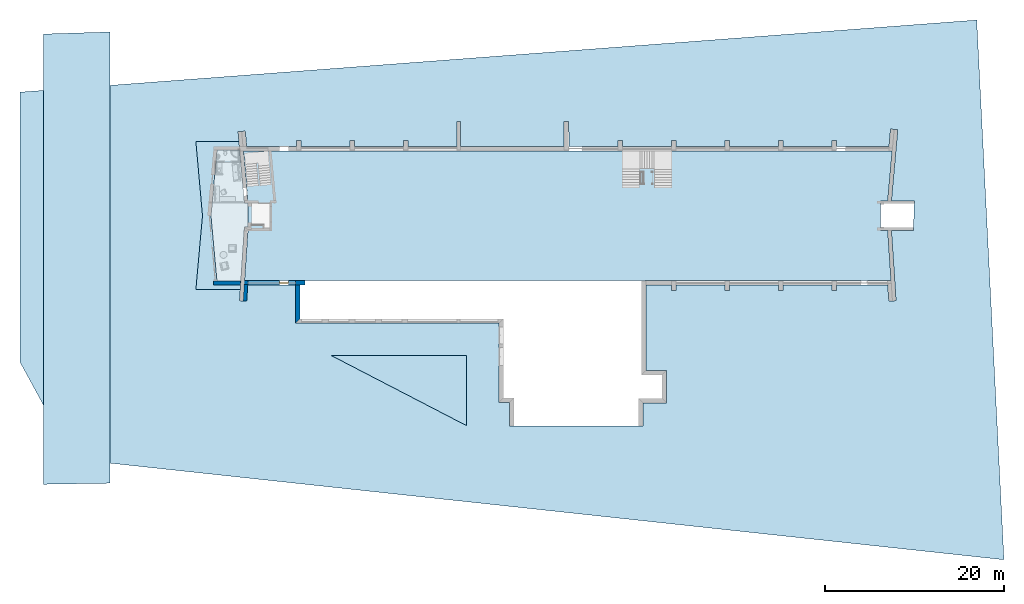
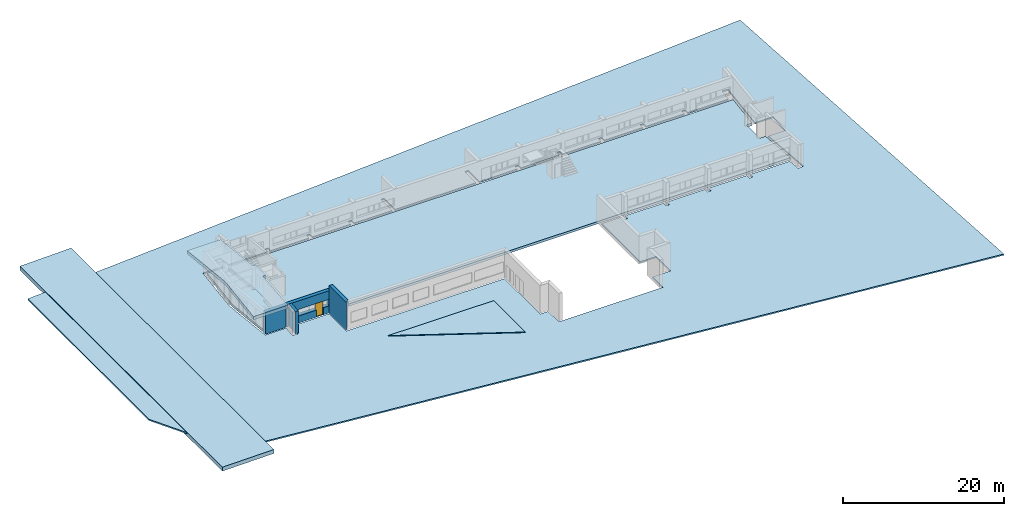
# One storey, part 1 of 36: 6 slabs, 4 walls, 1 door, 5 openings.
"""IFC2X3 building model written with IfcOpenShell, lengths in millimetres."""

from ifc_helpers import new_model, entity, si_unit, converted_unit, money_unit, direction, frame, origin_with_axes, place, context, subcontext, project, spatial, polyline, outline, extrude, open_shell, faceted_brep, surface_model, source, transform, mapped, material, material_list, layer, layer_set, layer_usage, type_object, element, fill, save


model = new_model("IFC2X3")

# Units and contexts
model_context = context("Model", 3, precision=1e-05, world=origin_with_axes(), true_north=direction((0.0, 1.0)))
body_context = subcontext(model_context, "Body", "Model", "MODEL_VIEW")
ifc_project = project(units=[si_unit("LENGTHUNIT", "METRE", prefix="MILLI"), si_unit("AREAUNIT", "SQUARE_METRE"), si_unit("VOLUMEUNIT", "CUBIC_METRE"), converted_unit("PLANEANGLEUNIT", "DEGREE", entity("IfcPlaneAngleMeasure", 0.0174532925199), si_unit("PLANEANGLEUNIT", "RADIAN"), dimensions=[0, 0, 0, 0, 0, 0, 0]), si_unit("SOLIDANGLEUNIT", "STERADIAN"), money_unit("USD"), converted_unit("TIMEUNIT", "Year", entity("IfcTimeMeasure", 31556926.0), si_unit("TIMEUNIT", "SECOND"), dimensions=[0, 0, 0, 0, 0, 0, 0]), si_unit("MASSUNIT", "GRAM"), si_unit("THERMODYNAMICTEMPERATUREUNIT", "DEGREE_CELSIUS"), si_unit("LUMINOUSINTENSITYUNIT", "LUMEN")], contexts=[model_context])

# Site, building, storey
site_placement = place(None, origin_with_axes())
site = spatial("IfcSite", under=ifc_project, at=site_placement, Name="Site", CompositionType="ELEMENT")
building_placement = place(site_placement, origin_with_axes())
building = spatial("IfcBuilding", under=site, at=building_placement, Name="Building", CompositionType="ELEMENT")
storey_placement = place(building_placement, frame((0.0, 0.0, -3400.0), z_axis=(0.0, 0.0, 1.0), x_axis=(1.0, 0.0, 0.0)))
storey = spatial("IfcBuildingStorey", under=building, at=storey_placement, Name="1KORRUS", CompositionType="ELEMENT", Elevation=-3400.0)

# Slabs
ifc_material_1 = material(Name="Plaat")
ifc_layer_1 = layer(ifc_material_1, 20.0, ventilated="UNKNOWN")
ifc_material_2 = material(Name="Betoonvalu")
ifc_layer_2 = layer(ifc_material_2, 100.0, ventilated="UNKNOWN")
ifc_material_3 = material(Name="Vahtpolüstüreen")
ifc_layer_3 = layer(ifc_material_3, 250.0, ventilated="UNKNOWN")
ifc_material_4 = material(Name="Kile")
ifc_layer_4 = layer(ifc_material_4, 2.0, ventilated="UNKNOWN")
ifc_layer_set_1 = layer_set([ifc_layer_1, ifc_layer_2, ifc_layer_3, ifc_layer_4], Name="Uus põrand betoonalusel klinkerplaat")
ifc_layer_usage_1 = layer_usage(ifc_layer_set_1, "AXIS3", "NEGATIVE", 372.0)
slab_type_1 = type_object("IfcSlabType", Name="Uus põrand betoonalusel klinkerplaat 372", PredefinedType="NOTDEFINED")
slab_1_placement = place(storey_placement, frame((-57282.5427324, -5039.6041088, 0.0), z_axis=(0.0, 0.0, 1.0), x_axis=(1.0, 0.0, 0.0)))
element("IfcSlab", 1, at=slab_1_placement, inside=storey, type_object=slab_type_1, material=ifc_layer_usage_1, Name="P1", ObjectType="P1", PredefinedType="FLOOR", context=body_context, shape_type="SweptSolid", body=[
    extrude(outline(polyline([(0.0, 0.0), (-672.046075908, -7350.62101853), (0.0, -14701.2420371), (2676.79244462, -14701.2420371), (3081.06805707, -8621.9084088), (3490.31580567, -8621.9084088), (3490.31580567, -5958.04851288), (3073.13371336, -5958.04851288), (3073.13371336, -5658.04865282), (3054.95497721, -5658.04865282), (2545.95737536, 0.0), (0.0, 0.0)])), frame((0.0, 0.0, -372.0), z_axis=(0.0, 0.0, 1.0), x_axis=(1.0, 0.0, 0.0)), (0.0, 0.0, 1.0), 372.0),
])
ifc_material_5 = material(Name="GENERIC - INTERNAL CLADDING")
ifc_layer_5 = layer(ifc_material_5, 50.0, ventilated="UNKNOWN")
ifc_layer_6 = layer(ifc_material_5, 100.0, ventilated="UNKNOWN")
ifc_material_6 = material(Name="GENERIC - STRUCTURAL (1)")
ifc_layer_7 = layer(ifc_material_6, 350.0, ventilated="UNKNOWN")
ifc_layer_set_2 = layer_set([ifc_layer_5, ifc_layer_6, ifc_layer_7], Name="Generic Slab/Roof (1)")
ifc_layer_usage_2 = layer_usage(ifc_layer_set_2, "AXIS3", "NEGATIVE", 500.0)
slab_type_2 = type_object("IfcSlabType", Name="Generic Slab/Roof 500", PredefinedType="FLOOR")
slab_2_placement = place(storey_placement, frame((-54821.1840913, -4099.20034937, 3700.0), z_axis=(0.0, 0.0, 1.0), x_axis=(1.0, 0.0, 0.0)))
element("IfcSlab", 2, at=slab_2_placement, inside=storey, type_object=slab_type_2, material=ifc_layer_usage_2, Name="K2", ObjectType="K2", PredefinedType="FLOOR", context=body_context, shape_type="SweptSolid", body=[
    extrude(outline(polyline([(0.0, 0.0), (-4826.89046876, 0.0), (-4085.07302194, -8291.02477795), (-4826.89880394, -16578.2259876), (153.262025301, -16576.558749), (611.342091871, -9562.31214002), (1028.95726024, -9562.31214002), (1028.95726024, -6898.45232183), (620.584308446, -6898.45232183), (0.0, 0.0)])), frame((0.0, 0.0, -500.0), z_axis=(0.0, 0.0, 1.0), x_axis=(1.0, 0.0, 0.0)), (0.0, 0.0, 1.0), 500.0),
])
ifc_layer_8 = layer(ifc_material_1, 10.0, ventilated="UNKNOWN")
ifc_layer_9 = layer(ifc_material_2, 15.0, ventilated="UNKNOWN")
ifc_layer_10 = layer(ifc_material_3, 30.0, ventilated="UNKNOWN")
ifc_material_7 = material(Name="Reinforced Concrete - Structural (1)")
ifc_layer_11 = layer(ifc_material_7, 265.0, ventilated="UNKNOWN")
ifc_layer_12 = layer(ifc_material_4, 45.0, ventilated="UNKNOWN")
ifc_layer_set_3 = layer_set([ifc_layer_8, ifc_layer_9, ifc_layer_10, ifc_layer_11, ifc_layer_12], Name="Olemasolev põrand, vahelagi, uus viimistlus")
ifc_layer_usage_3 = layer_usage(ifc_layer_set_3, "AXIS3", "NEGATIVE", 365.0)
slab_type_3 = type_object("IfcSlabType", Name="Olemasolev põrand, vahelagi, uus viimistlus 365", PredefinedType="NOTDEFINED")
slab_3_placement = place(storey_placement, frame((18345.3807357, -5139.6041088, 0.0), z_axis=(0.0, 0.0, 1.0), x_axis=(1.0, 0.0, 0.0)))
element("IfcSlab", 3, at=slab_3_placement, inside=storey, type_object=slab_type_3, material=ifc_layer_usage_3, Name="P2", ObjectType="P2", PredefinedType="FLOOR", context=body_context, shape_type="SweptSolid", body=[
    extrude(outline(polyline([(0.0, 0.0), (-72688.4069777, 0.0), (-72180.3491953, -5558.0485624), (-72137.6075668, -5858.0485624), (-72137.6075668, -8521.9083806), (-72541.2011619, -14499.6357906), (-127.864082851, -14499.6357906), (-500.264111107, -8899.63579061), (-1330.20076601, -8899.63579061), (-1330.20076601, -5600.0), (-503.775624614, -5600.0), (0.0, 0.0)])), frame((0.0, 0.0, -365.0), z_axis=(0.0, 0.0, 1.0), x_axis=(1.0, 0.0, 0.0)), (0.0, 0.0, 1.0), 365.0),
])
ifc_material_8 = material(Name="Betoon")
ifc_layer_13 = layer(ifc_material_8, 600.0, ventilated="UNKNOWN")
ifc_layer_set_4 = layer_set([ifc_layer_13], Name="Betoon 600")
ifc_layer_usage_4 = layer_usage(ifc_layer_set_4, "AXIS3", "NEGATIVE", 600.0)
slab_type_4 = type_object("IfcSlabType", Name="Betoon 600", PredefinedType="FLOOR")
slab_4_placement = place(storey_placement, frame((-44515.6452259, -28045.0388889, 0.0), z_axis=(0.0, 0.0, 1.0), x_axis=(1.0, 0.0, 0.0)))
element("IfcSlab", 4, at=slab_4_placement, inside=storey, type_object=slab_type_4, material=ifc_layer_usage_4, Name="SLA - 009", PredefinedType="FLOOR", context=body_context, shape_type="SweptSolid", body=[
    extrude(outline(polyline([(0.0, 0.0), (15193.0558398, -7873.32448376), (15193.0558398, 0.0), (0.0, 0.0)])), frame((0.0, 0.0, -600.0), z_axis=(0.0, 0.0, 1.0), x_axis=(1.0, 0.0, 0.0)), (0.0, 0.0, 1.0), 600.0),
])
ifc_layer_usage_5 = layer_usage(ifc_layer_set_4, "AXIS3", "NEGATIVE", 600.0)
slab_5_placement = place(storey_placement, frame((-69238.5653449, 8183.10269423, 0.0), z_axis=(0.0, 0.0, 1.0), x_axis=(1.0, 0.0, 0.0)))
element("IfcSlab", 5, at=slab_5_placement, inside=storey, type_object=slab_type_4, material=ifc_layer_usage_5, Name="SLA - 009", PredefinedType="FLOOR", context=body_context, shape_type="SweptSolid", body=[
    extrude(outline(polyline([(0.0, 0.0), (-7479.47671339, -234.980930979), (-7479.47671339, -50668.4997614), (0.0, -50541.7823774), (0.0, 0.0)])), frame((0.0, 0.0, -600.0), z_axis=(0.0, 0.0, 1.0), x_axis=(1.0, 0.0, 0.0)), (0.0, 0.0, 1.0), 600.0),
])

# Slab, opening
ifc_material_9 = material(Name="Sillutis, Pinnas")
ifc_layer_14 = layer(ifc_material_9, 200.0, ventilated="UNKNOWN")
ifc_layer_set_5 = layer_set([ifc_layer_14], Name="Sillutis, Pinnas 200")
ifc_layer_usage_6 = layer_usage(ifc_layer_set_5, "AXIS3", "NEGATIVE", 200.0)
slab_type_5 = type_object("IfcSlabType", Name="Sillutis, Pinnas 200", PredefinedType="NOTDEFINED")
slab_6_placement = place(storey_placement, frame((27813.1369212, 9518.9313196, -100.0), z_axis=(0.0, 0.0, 1.0), x_axis=(1.0, 0.0, 0.0)))
slab_6 = element("IfcSlab", 6, at=slab_6_placement, inside=storey, type_object=slab_type_5, material=ifc_layer_usage_6, Name="SILLUTIS", PredefinedType="FLOOR", context=body_context, shape_type="SweptSolid", body=[
    extrude(outline(polyline([(0.0, 0.0), (-107158.602901, -8079.0881796), (-107158.602901, -38313.8670272), (-101238.645486, -49189.4258915), (3051.880033, -60456.2901866), (0.0, 0.0)])), frame((0.0, 0.0, -200.0), z_axis=(0.0, 0.0, 1.0), x_axis=(1.0, 0.0, 0.0)), (0.0, 0.0, 1.0), 200.0),
])
opening_1_placement = place(slab_6_placement, origin_with_axes())
element("IfcOpeningElement", 7, at=opening_1_placement, cuts=slab_6, Name="Slab Opening", context=body_context, shape_type="SweptSolid", body=[
    extrude(outline(polyline([(-86169.3940344, -21909.1565141), (-85460.7770798, -29659.7773499), (-82445.487159, -29659.7773499), (-82563.5466011, -31435.1066097), (-81799.8809611, -31493.3007802), (-81635.1357192, -29520.8448992), (-81530.7212841, -29658.1712534), (-76283.433649, -29658.1712534), (-76283.4336246, -33964.5354284), (-53523.4908804, -33964.5354284), (-53523.4908804, -42844.9995744), (-52353.4927423, -42844.9995744), (-52353.4927423, -45471.1178062), (-37362.0300264, -45471.1178062), (-37362.0300264, -42881.2450177), (-34755.7859215, -42881.2450177), (-34755.7859215, -39254.1550719), (-37044.9826146, -39254.1550719), (-37044.9826146, -29657.8070096), (-34203.4336246, -29657.8070096), (-34203.4336246, -30315.5732603), (-33703.4336246, -30315.5732603), (-33703.4336246, -29657.8070096), (-28203.4336246, -29657.8070096), (-28203.4336246, -30315.5732603), (-27703.4336246, -30315.5732603), (-27703.4336246, -29657.8070096), (-22203.4336246, -29657.8070096), (-22203.4336246, -30315.5732603), (-21703.4336246, -30315.5732603), (-21703.4336246, -29657.8070096), (-16203.4336246, -29657.8070096), (-16203.4336246, -30315.5732603), (-15703.4336246, -30315.5732603), (-15703.4336246, -29657.8070096), (-9971.7492595, -29657.8070096), (-9841.5330405, -31487.9633205), (-9043.320584, -31435.1065325), (-9567.1368221, -23558.171219), (-7099.214634, -23558.171219), (-6986.21597, -20258.5354284), (-9566.2794484, -20258.5354284), (-8852.8306724, -12287.3662905), (-9649.613073, -12215.6877991), (-9824.3915154, -14158.5354284), (-15703.4336246, -14158.5354284), (-15703.4336246, -13501.1333871), (-16203.4336246, -13501.1333871), (-16203.4336246, -14158.5354284), (-21695.3425646, -14158.5354284), (-21703.4336246, -13501.1333871), (-22203.4336246, -13501.1333871), (-22194.7716233, -14158.5354284), (-27697.9656248, -14158.5354284), (-27703.4336246, -13501.1333871), (-28203.4336246, -13501.1333871), (-28203.4336246, -14158.5354284), (-33703.4336246, -14158.5354284), (-33703.4336246, -13501.1333871), (-34203.4336246, -13501.1333871), (-34181.8009625, -14158.5354284), (-39703.4336246, -14158.5354284), (-39703.4336246, -13501.1333871), (-40203.4336246, -13501.1333871), (-40203.4336246, -14158.5354284), (-45688.8461662, -14158.5354284), (-45703.4336246, -11374.1045336), (-46203.4336246, -11374.1045336), (-46203.4336246, -14158.5354284), (-57814.9991486, -14158.5354284), (-57814.9991486, -11374.1045336), (-58214.9991486, -11374.1045336), (-58214.9991486, -14158.5354284), (-63703.4336246, -14158.5354284), (-63703.4336246, -13501.1333871), (-64203.4336246, -13501.1333871), (-64203.4336246, -14158.5354284), (-69703.4336246, -14158.5354284), (-69703.4336246, -13501.1333871), (-70203.4336246, -13501.1333871), (-70203.4336246, -14158.5354284), (-75703.4336246, -14158.5354284), (-75703.4336246, -13501.1333871), (-76203.4336246, -13501.1333871), (-76206.9643261, -14158.5354284), (-81770.1545517, -14158.5353946), (-81936.7511475, -12443.6005268), (-82734.2875956, -12506.8959979), (-82585.7063265, -14158.5354284), (-85460.7770798, -14158.5353946), (-86169.3940344, -21909.1565141)])), frame((0.0, 0.0, -200.0), z_axis=(0.0, 0.0, 1.0), x_axis=(1.0, 0.0, 0.0)), (0.0, 0.0, 1.0), 200.0),
])

# Wall
ifc_material_10 = material(Name="Olemasolevad seinad tellis, uus viimistlus")
ifc_layer_15 = layer(ifc_material_10, 400.0, ventilated="UNKNOWN")
ifc_layer_set_6 = layer_set([ifc_layer_15], Name="Olemasolevad seinad tellis, uus viimistlus 400")
ifc_layer_usage_7 = layer_usage(ifc_layer_set_6, "AXIS2", "POSITIVE", -400.0)
wall_type_1 = type_object("IfcWallType", Name="Olemasolevad seinad tellis, uus viimistlus 400", PredefinedType="NOTDEFINED")
wall_1_placement = place(storey_placement, frame((-53832.9206294, -20131.8529966, 0.0), z_axis=(0.0, 0.0, 1.0), x_axis=(-0.0647657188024, -0.997900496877, 0.0)))
element("IfcWallStandardCase", 8, at=wall_1_placement, inside=storey, type_object=wall_type_1, material=ifc_layer_usage_7, Name="VS1", ObjectType="VS1", context=body_context, shape_type="SweptSolid", body=[
    extrude(outline(polyline([(0.0, -400.0), (1841.51942027, -400.0), (1841.51942027, 0.0), (0.0, 0.0), (0.0, -400.0)])), origin_with_axes(), (0.0, 0.0, 1.0), 3400.0),
])

# Wall, openings, door
ifc_layer_16 = layer(ifc_material_10, 500.0, ventilated="UNKNOWN")
ifc_layer_set_7 = layer_set([ifc_layer_16], Name="Olemasolevad seinad tellis, uus viimistlus 500")
ifc_layer_usage_8 = layer_usage(ifc_layer_set_7, "AXIS2", "POSITIVE", -400.0)
wall_type_2 = type_object("IfcWallType", Name="Olemasolevad seinad tellis, uus viimistlus 500", PredefinedType="NOTDEFINED")
wall_2_placement = place(storey_placement, frame((-54605.6435345, -19739.2398994, 0.0), z_axis=(0.0, 0.0, 1.0), x_axis=(1.0, 0.0, 0.0)))
wall_2 = element("IfcWallStandardCase", 9, at=wall_2_placement, inside=storey, type_object=wall_type_2, material=ifc_layer_usage_8, Name="VS1", ObjectType="VS1", context=body_context, shape_type="SweptSolid", body=[
    extrude(outline(polyline([(0.0, -400.0), (7153.83557515, -400.0), (7153.83557515, 100.0), (0.0, 100.0), (0.0, -400.0)])), origin_with_axes(), (0.0, 0.0, 1.0), 3400.0),
])
opening_2_placement = place(wall_2_placement, frame((2055.11692338, 0.0, 1100.0), z_axis=(0.0, 0.0, 1.0), x_axis=(1.0, 0.0, 0.0)))
element("IfcOpeningElement", 10, at=opening_2_placement, cuts=wall_2, Name="Olemasolevad aknad jäävad", context=body_context, shape_type="SweptSolid", body=[
    extrude(outline(polyline([(1282.942, 1000.0), (-1282.942, 1000.0), (-1282.942, 0.0), (1282.942, 0.0), (1282.942, 1000.0)])), frame((0.0, -200.0, 0.0), z_axis=(0.0, 1.0, 0.0), x_axis=(-1.0, 0.0, 0.0)), (0.0, 0.0, 1.0), 800.0),
    extrude(outline(polyline([(1282.942, 0.0), (-1282.942, 0.0), (-1282.942, -1000.0), (1282.942, -1000.0), (1282.942, 0.0)])), frame((0.0, -200.0, 0.0), z_axis=(0.0, -1.0, 0.0), x_axis=(-1.0, 0.0, 0.0)), (0.0, 0.0, 1.0), 700.0),
])
opening_3_placement = place(wall_2_placement, frame((3834.30451492, 0.0, 1100.0), z_axis=(0.0, 0.0, 1.0), x_axis=(1.0, 0.0, 0.0)))
element("IfcOpeningElement", 11, at=opening_3_placement, cuts=wall_2, Name="Olemasolevad aknad jäävad", context=body_context, shape_type="SweptSolid", body=[
    extrude(outline(polyline([(496.245, 1000.0), (-496.245, 1000.0), (-496.245, 0.0), (496.245, 0.0), (496.245, 1000.0)])), frame((0.0, -200.0, 0.0), z_axis=(0.0, 1.0, 0.0), x_axis=(-1.0, 0.0, 0.0)), (0.0, 0.0, 1.0), 800.0),
    extrude(outline(polyline([(496.245, 0.0), (-496.245, 0.0), (-496.245, -1000.0), (496.245, -1000.0), (496.245, 0.0)])), frame((0.0, -200.0, 0.0), z_axis=(0.0, -1.0, 0.0), x_axis=(-1.0, 0.0, 0.0)), (0.0, 0.0, 1.0), 700.0),
])
opening_4_placement = place(wall_2_placement, frame((5732.94838348, 0.0, 1100.0), z_axis=(0.0, 0.0, 1.0), x_axis=(1.0, 0.0, 0.0)))
element("IfcOpeningElement", 12, at=opening_4_placement, cuts=wall_2, Name="Olemasolevad aknad jäävad", context=body_context, shape_type="SweptSolid", body=[
    extrude(outline(polyline([(402.398, 1000.0), (-402.398, 1000.0), (-402.398, 0.0), (402.398, 0.0), (402.398, 1000.0)])), frame((0.0, -200.0, 0.0), z_axis=(0.0, 1.0, 0.0), x_axis=(-1.0, 0.0, 0.0)), (0.0, 0.0, 1.0), 800.0),
    extrude(outline(polyline([(402.398, 0.0), (-402.398, 0.0), (-402.398, -1000.0), (402.398, -1000.0), (402.398, 0.0)])), frame((0.0, -200.0, 0.0), z_axis=(0.0, -1.0, 0.0), x_axis=(-1.0, 0.0, 0.0)), (0.0, 0.0, 1.0), 700.0),
])
opening_5_placement = place(wall_2_placement, frame((4830.54993578, 0.0, 0.0), z_axis=(0.0, 0.0, 1.0), x_axis=(1.0, 0.0, 0.0)))
opening_5 = element("IfcOpeningElement", 13, at=opening_5_placement, cuts=wall_2, Name="ava", context=body_context, shape_type="SweptSolid", body=[
    extrude(outline(polyline([(-500.0, 2100.0), (-500.0, 0.0), (500.0, 0.0), (500.0, 2100.0), (-500.0, 2100.0)])), frame((0.0, -200.0, 0.0), z_axis=(0.0, -1.0, 0.0), x_axis=(1.0, 0.0, 0.0)), (0.0, 0.0, -1.0), 800.0),
    extrude(outline(polyline([(-500.0, 0.0), (-500.0, -2100.0), (500.0, -2100.0), (500.0, 0.0), (-500.0, 0.0)])), frame((0.0, -200.0, 0.0), z_axis=(0.0, 1.0, 0.0), x_axis=(1.0, 0.0, 0.0)), (0.0, 0.0, -1.0), 700.0),
])
ifc_material_11 = material(Name="Background")
ifc_material_list = material_list([ifc_material_11])
door_style = type_object("IfcDoorStyle", Name="Door 19", ConstructionType="NOTDEFINED", OperationType="SINGLE_SWING_LEFT", ParameterTakesPrecedence=False, Sizeable=False)
shared_shape = source(origin_with_axes(), body_context, "Body", "SurfaceModel", [
    faceted_brep([(460.0, -240.0, 0.0), (460.0, -315.0, 0.0), (460.0, -315.0, 2060.0), (460.0, -240.0, 2060.0), (472.0, -240.0, 0.0), (472.0, -200.0, 0.0), (500.0, -200.0, 0.0), (500.0, -315.0, 0.0), (500.0, -315.0, 2060.0), (472.0, -240.0, 2060.0), (500.0, -200.0, 2060.0), (472.0, -200.0, 2060.0)], [[[0, 1, 2, 3]], [[4, 5, 6, 7, 1, 0]], [[2, 1, 7, 8]], [[9, 3, 2, 8, 10, 11]], [[9, 4, 0, 3]], [[11, 5, 4, 9]], [[11, 10, 6, 5]], [[7, 6, 10, 8]]]),
    faceted_brep([(-472.0, -240.0, 2060.0), (-472.0, -200.0, 2060.0), (-500.0, -200.0, 2060.0), (-500.0, -315.0, 2060.0), (-460.0, -315.0, 2060.0), (-460.0, -240.0, 2060.0), (-472.0, -240.0, 0.0), (-472.0, -200.0, 0.0), (-500.0, -200.0, 0.0), (-500.0, -315.0, 0.0), (-460.0, -315.0, 0.0), (-460.0, -240.0, 0.0)], [[[0, 1, 2, 3, 4, 5]], [[0, 6, 7, 1]], [[7, 8, 2, 1]], [[3, 2, 8, 9]], [[4, 3, 9, 10]], [[5, 4, 10, 11]], [[5, 11, 6, 0]], [[6, 11, 10, 9, 8, 7]]]),
    faceted_brep([(472.0, -200.0, 2072.0), (-472.0, -200.0, 2072.0), (-472.0, -200.0, 2060.0), (-500.0, -200.0, 2060.0), (-500.0, -200.0, 2100.0), (500.0, -200.0, 2100.0), (500.0, -200.0, 2060.0), (472.0, -200.0, 2060.0), (472.0, -240.0, 2072.0), (-472.0, -240.0, 2072.0), (-472.0, -240.0, 2060.0), (-460.0, -240.0, 2060.0), (-460.0, -315.0, 2060.0), (-500.0, -315.0, 2060.0), (-500.0, -315.0, 2100.0), (500.0, -315.0, 2100.0), (500.0, -315.0, 2060.0), (472.0, -240.0, 2060.0), (460.0, -315.0, 2060.0), (460.0, -240.0, 2060.0)], [[[0, 1, 2, 3, 4, 5, 6, 7]], [[0, 8, 9, 1]], [[1, 9, 10, 2]], [[10, 11, 12, 13, 3, 2]], [[14, 4, 3, 13]], [[15, 5, 4, 14]], [[16, 6, 5, 15]], [[17, 7, 6, 16, 18, 19]], [[7, 17, 8, 0]], [[10, 9, 8, 17, 19, 11]], [[19, 18, 12, 11]], [[13, 12, 18, 16, 15, 14]]]),
    faceted_brep([(-472.0, -200.0, 200.0), (-372.0, -200.0, 200.0), (-372.0, -240.0, 200.0), (-472.0, -240.0, 200.0), (-472.0, -200.0, 1972.0), (-372.0, -200.0, 1972.0), (-372.0, -240.0, 1972.0), (-472.0, -240.0, 1972.0)], [[[0, 1, 2, 3]], [[0, 4, 5, 1]], [[1, 5, 6, 2]], [[3, 2, 6, 7]], [[4, 0, 3, 7]], [[5, 4, 7, 6]]]),
    faceted_brep([(472.0, -200.0, 200.0), (472.0, -200.0, 1972.0), (472.0, -240.0, 1972.0), (472.0, -240.0, 200.0), (372.0, -200.0, 200.0), (372.0, -200.0, 1972.0), (372.0, -240.0, 1972.0), (372.0, -240.0, 200.0)], [[[0, 1, 2, 3]], [[0, 4, 5, 1]], [[1, 5, 6, 2]], [[3, 2, 6, 7]], [[4, 0, 3, 7]], [[5, 4, 7, 6]]]),
    faceted_brep([(-472.0, -200.0, 0.0), (472.0, -200.0, 0.0), (472.0, -240.0, 0.0), (-472.0, -240.0, 0.0), (-472.0, -200.0, 200.0), (-372.0, -200.0, 200.0), (372.0, -200.0, 200.0), (472.0, -200.0, 200.0), (472.0, -240.0, 200.0), (372.0, -240.0, 200.0), (-372.0, -240.0, 200.0), (-472.0, -240.0, 200.0)], [[[0, 1, 2, 3]], [[0, 4, 5, 6, 7, 1]], [[1, 7, 8, 2]], [[3, 2, 8, 9, 10, 11]], [[4, 0, 3, 11]], [[5, 4, 11, 10]], [[6, 5, 10, 9]], [[7, 6, 9, 8]]]),
    faceted_brep([(-472.0, -200.0, 2072.0), (-472.0, -200.0, 1972.0), (-472.0, -240.0, 1972.0), (-472.0, -240.0, 2072.0), (472.0, -200.0, 2072.0), (472.0, -200.0, 1972.0), (372.0, -200.0, 1972.0), (-372.0, -200.0, 1972.0), (-372.0, -240.0, 1972.0), (372.0, -240.0, 1972.0), (472.0, -240.0, 1972.0), (472.0, -240.0, 2072.0)], [[[0, 1, 2, 3]], [[0, 4, 5, 6, 7, 1]], [[1, 7, 8, 2]], [[3, 2, 8, 9, 10, 11]], [[4, 0, 3, 11]], [[5, 4, 11, 10]], [[6, 5, 10, 9]], [[7, 6, 9, 8]]]),
    surface_model("IfcShellBasedSurfaceModel", [(-372.0, -214.0, 200.0), (-372.0, -214.0, 1972.0), (372.0, -214.0, 1972.0), (372.0, -214.0, 200.0)], [open_shell([[[0, 1, 2, 3]]])]),
    surface_model("IfcShellBasedSurfaceModel", [(-372.0, -226.0, 200.0), (372.0, -226.0, 200.0), (372.0, -226.0, 1972.0), (-372.0, -226.0, 1972.0)], [open_shell([[[0, 1, 2, 3]]])]),
])
door_placement = place(opening_5_placement, frame((500.0, 0.0, 0.0), z_axis=(0.0, 0.0, 1.0), x_axis=(-1.0, 0.0, 0.0)))
door = element("IfcDoor", 14, at=door_placement, inside=storey, type_object=door_style, material=ifc_material_list, Name="ava", ObjectType="door", OverallHeight=2100.0, OverallWidth=1000.0, context=body_context, shape_type="MappedRepresentation", body=[
    mapped(shared_shape, transform((500.0, 400.0, 0.0))),
])
fill(opening_5, door)

# Walls
ifc_layer_usage_9 = layer_usage(ifc_layer_set_7, "AXIS2", "POSITIVE", -100.0)
wall_3_placement = place(storey_placement, frame((-48370.2967033, -19739.2398994, 0.0), z_axis=(0.0, 0.0, 1.0), x_axis=(0.0, -1.0, 0.0)))
element("IfcWallStandardCase", 15, at=wall_3_placement, inside=storey, type_object=wall_type_2, material=ifc_layer_usage_9, Name="VS1", ObjectType="VS1", context=body_context, shape_type="SweptSolid", body=[
    extrude(outline(polyline([(400.0, -100.0), (4706.3642094, -100.0), (4206.3642094, 400.0), (400.0, 400.0), (400.0, -100.0)])), origin_with_axes(), (0.0, 0.0, 1.0), 4200.0),
])
ifc_layer_17 = layer(ifc_material_1, 200.0, ventilated="UNKNOWN")
ifc_material_12 = material(Name="Kergplokk")
ifc_layer_18 = layer(ifc_material_12, 200.0, ventilated="UNKNOWN")
ifc_layer_set_8 = layer_set([ifc_layer_17, ifc_layer_18], Name="VS2 Uus välissein kergplokk, soojustus, plaat (1)")
ifc_layer_usage_10 = layer_usage(ifc_layer_set_8, "AXIS2", "POSITIVE", 0.0)
wall_type_3 = type_object("IfcWallType", Name="VS2 Uus välissein kergplokk, soojustus, plaat 400", PredefinedType="NOTDEFINED")
wall_4_placement = place(storey_placement, frame((-57647.6401026, -20140.8461459, 0.0), z_axis=(0.0, 0.0, 1.0), x_axis=(1.0, 0.0, 0.0)))
element("IfcWallStandardCase", 16, at=wall_4_placement, inside=storey, type_object=wall_type_3, material=ifc_layer_usage_10, Name="VS2", ObjectType="VS2", context=body_context, shape_type="SweptSolid", body=[
    extrude(outline(polyline([(0.0, 0.0), (3015.28975073, 0.0), (3015.28975073, 400.0), (0.0, 400.0), (0.0, 0.0)])), origin_with_axes(), (0.0, 0.0, 1.0), 3400.0),
])

save(model, "model.ifc")
